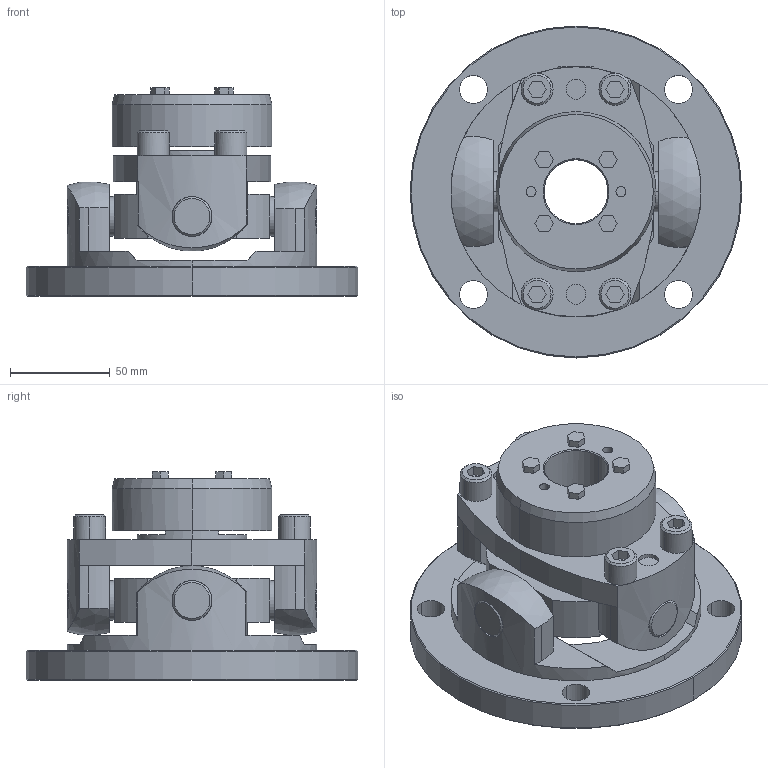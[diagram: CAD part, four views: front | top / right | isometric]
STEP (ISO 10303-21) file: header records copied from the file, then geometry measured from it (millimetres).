
FILE_DESCRIPTION((''),'2;1');
FILE_NAME('UCNF-125T7-32.stp','2011-09-22T08:23:36',(''),(''),'AutoCAD STEP 2000i','AutoCAD 2000i',', , ');
FILE_SCHEMA(('CONFIG_CONTROL_DESIGN'));
Length unit declared in the file: millimetre
Products named in the file (6): UCNF-125T7-32; 忣兜1; UCNF-12502; UCN125T7-T032-1; UCN125T7-T032; UCN125-SEN
Assembly tree (5 placements, depth 2):
  UCNF-125T7-32
    忣兜1
    UCNF-12502
    UCN125T7-T032-1
    UCN125T7-T032
    UCN125-SEN
Bounding box: 166 x 166 x 104.5 mm (x, y, z)
Volume: 712365.8 mm3; surface area: 129608.9 mm2
Topology: 1 solids, 1 shells, 284 faces, 711 edges, 463 vertices
Faces by surface type: plane 138, cylinder 104, cone 38, sphere 4
Entity records: 9205 total; most frequent: CARTESIAN_POINT 1988, DIRECTION 1546, ORIENTED_EDGE 1422, EDGE_CURVE 711, AXIS2_PLACEMENT_3D 577, VERTEX_POINT 463, VECTOR 392, LINE 392
